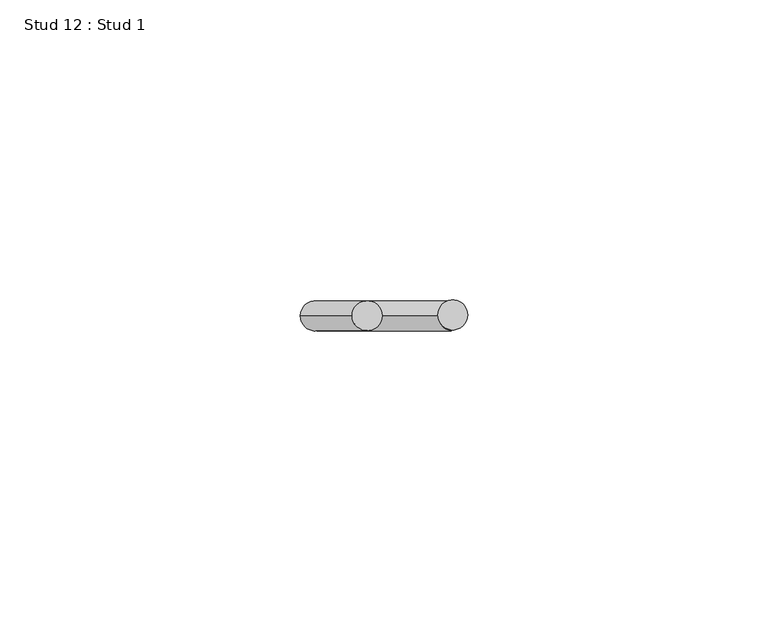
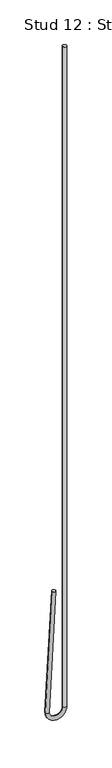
"""IFC4 building model written with IfcOpenShell, lengths in millimetres: proxy geometry, Stud 12 : Stud 1."""

from ifc_helpers import new_model, si_unit, point, frame, origin, place, context, project, spatial, circle_curve, ellipse_curve, trimmed, source, transform, mapped, element, save
from ifc_brep_helpers import plane_surface, cylinder_surface, revolved_surface, advanced_brep


def stud_12_stud_1_13a185cc(model_context):
    return source(origin(), model_context, "Body", "AdvancedBrep", [
        advanced_brep(
        [(-12209.2532788, 3381.5191481, 3640.800192), (-12204.2601311, 3381.5191481, 3640.5385122), (-12217.8939451, 3381.5191481, 3475.9264558), (-12212.9007975, 3381.5191481, 3475.664776), (-12194.9920812, 3381.5191481, 3475.7956159), (-12189.9920812, 3381.5191481, 3475.7956159), (-12189.9920812, 3381.5191481, 4390.1956159), (-12194.9920812, 3381.5191481, 4390.1956159)],
        [
            (0, 1, circle_curve(frame((-12206.7567049, 3381.5191481, 3640.6693521), z_axis=(0.05233595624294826, 0.0, 0.9986295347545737), x_axis=(0.9986295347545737, 0.0, -0.05233595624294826)), 2.5)),
            (1, 0, circle_curve(frame((-12206.7567049, 3381.5191481, 3640.6693521), z_axis=(0.05233595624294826, 0.0, 0.9986295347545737), x_axis=(0.9986295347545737, 0.0, -0.05233595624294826)), 2.5)),
            (0, 2),
            (2, 3, circle_curve(frame((-12215.3973713, 3381.5191481, 3475.7956159), z_axis=(0.05233595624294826, 0.0, 0.9986295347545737), x_axis=(0.9986295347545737, 0.0, -0.05233595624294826)), 2.5)),
            (3, 1),
            (3, 2, circle_curve(frame((-12215.3973713, 3381.5191481, 3475.7956159), z_axis=(0.05233595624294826, 0.0, 0.9986295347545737), x_axis=(0.9986295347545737, 0.0, -0.05233595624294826)), 2.5)),
            (4, 3, circle_curve(frame((-12203.9447263, 3381.5191481, 3475.7956159), z_axis=(0.0, 1.0, 0.0), x_axis=(-1.0, 0.0, 0.0)), 8.952645)),
            (2, 5, circle_curve(frame((-12203.9447263, 3381.5191481, 3475.7956159), z_axis=(0.0, -1.0, 0.0), x_axis=(-1.0, 0.0, 0.0)), 13.952645)),
            (5, 4, circle_curve(frame((-12192.4920812, 3381.5191481, 3475.7956159), z_axis=(0.0, 0.0, -1.0), x_axis=(-1.0, 0.0, 0.0)), 2.5)),
            (4, 5, circle_curve(frame((-12192.4920812, 3381.5191481, 3475.7956159), z_axis=(0.0, 0.0, -1.0), x_axis=(-1.0, 0.0, 0.0)), 2.5)),
            (6, 7, circle_curve(frame((-12192.4920812, 3381.5191481, 4390.1956159), z_axis=(0.0, 0.0, 1.0), x_axis=(-1.0, 0.0, 0.0)), 2.5)),
            (7, 6, circle_curve(frame((-12192.4920812, 3381.5191481, 4390.1956159), z_axis=(0.0, 0.0, 1.0), x_axis=(-1.0, 0.0, 0.0)), 2.5)),
            (5, 6),
            (7, 4),
        ],
        [
            plane_surface(frame((-12206.7567049, 3975.2441481, 3640.6693521), z_axis=(0.05233595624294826, 0.0, 0.9986295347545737), x_axis=(0.0, -1.0, 0.0))),
            cylinder_surface(frame((-12206.7567049, 3381.5191481, 3640.6693521), z_axis=(0.05233595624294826, 0.0, 0.9986295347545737), x_axis=(0.9986295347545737, 0.0, -0.05233595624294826)), 2.5),
            revolved_surface(trimmed(ellipse_curve(frame((-12215.3973713, 3381.5191481, 3475.7956159), z_axis=(0.0, 0.0, 1.0), x_axis=(1.0, 0.0, 0.0)), 2.5, 2.5), [point((-12217.8973713, 3381.5191481, 3475.7956159))], [point((-12212.8973713, 3381.5191481, 3475.7956159))], True, "CARTESIAN"), (-12203.9447263, 3975.2441481, 3475.7956159), (0.0, -1.0, 0.0)),
            revolved_surface(trimmed(ellipse_curve(frame((-12215.3973713, 3381.5191481, 3475.7956159), z_axis=(0.0, 0.0, 1.0), x_axis=(1.0, 0.0, 0.0)), 2.5, 2.5), [point((-12212.8973713, 3381.5191481, 3475.7956159))], [point((-12217.8973713, 3381.5191481, 3475.7956159))], True, "CARTESIAN"), (-12203.9447263, 3975.2441481, 3475.7956159), (0.0, -1.0, 0.0)),
            plane_surface(frame((-12192.4920812, 3975.2441481, 4390.1956159), z_axis=(0.0, 0.0, 1.0), x_axis=(0.0, -1.0, 0.0))),
            cylinder_surface(frame((-12192.4920812, 3381.5191481, 3475.7956159), z_axis=(0.0, 0.0, -1.0), x_axis=(-1.0, 0.0, 0.0)), 2.5),
        ],
        [
            (0, [[1, 2]]),
            (1, [[-1, 3, 4, 5]]),
            (1, [[-2, -5, 6, -3]]),
            (2, [[7, -4, 8, 9]]),
            (3, [[-8, -6, -7, 10]]),
            (4, [[11, 12]]),
            (5, [[-9, 13, -12, 14]]),
            (5, [[-10, -14, -11, -13]]),
        ],
    ),
    ])


if __name__ == "__main__":
    model = new_model("IFC4")
    model_context = context("Model", 3, world=origin())
    ifc_project = project(units=[si_unit("LENGTHUNIT", "METRE", prefix="MILLI")], contexts=[model_context])
    site = spatial("IfcSite", under=ifc_project)
    building = spatial("IfcBuilding", under=site)
    placement = place(None, origin())
    stud_12_stud_1_shape = stud_12_stud_1_13a185cc(model_context)
    element("IfcBuildingElementProxy", 1, Name="Stud 12 : Stud 1", ObjectType="Stud 12 : Stud 1", at=placement, inside=building, context=model_context, shape_type="MappedRepresentation", body=[
        mapped(stud_12_stud_1_shape, transform((0.0, 0.0, 0.0), x_axis=(1.0, 0.0, 0.0), y_axis=(0.0, 1.0, 0.0), z_axis=(0.0, 0.0, 1.0))),
    ])
    save(model, "model.ifc")
